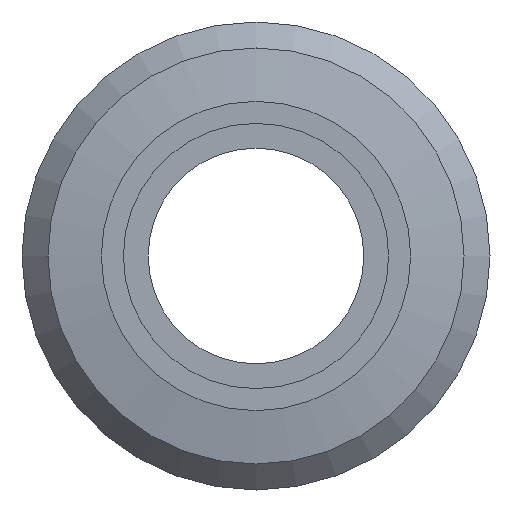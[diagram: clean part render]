
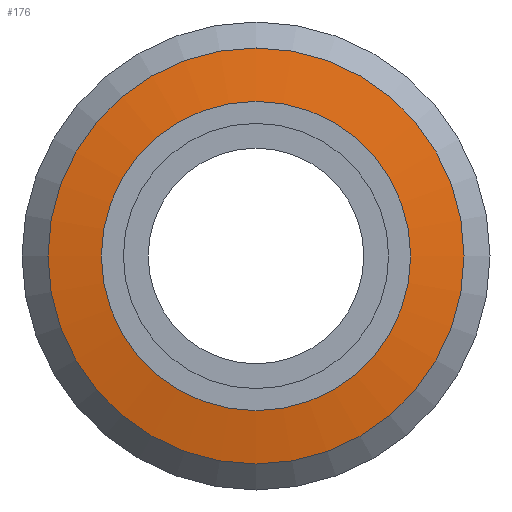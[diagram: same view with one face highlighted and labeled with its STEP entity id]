
A CAD part, front view. The second image highlights one B-rep face of the part: STEP entity #176.
In plain terms, the highlighted conical face has half-angle 80 degrees and reference radius 6.975 mm.
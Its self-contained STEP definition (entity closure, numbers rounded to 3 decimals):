
#142=CARTESIAN_POINT('',(-5.95,-3.2,0.0));
#143=VERTEX_POINT('',#142);
#144=CARTESIAN_POINT('',(0.0,-3.2,0.0));
#145=DIRECTION('',(0.0,1.0,0.0));
#146=DIRECTION('',(-1.0,0.0,0.0));
#147=AXIS2_PLACEMENT_3D('',#144,#145,#146);
#148=CIRCLE('',#147,5.95);
#149=EDGE_CURVE('',#143,#143,#148,.T.);
#157=CARTESIAN_POINT('',(0.0,-3.019,0.0));
#158=DIRECTION('',(0.0,1.0,0.0));
#159=DIRECTION('',(-1.0,0.0,0.0));
#160=AXIS2_PLACEMENT_3D('',#157,#158,#159);
#161=CONICAL_SURFACE('',#160,6.975,80.);
#162=CARTESIAN_POINT('',(-8.0,-2.839,0.0));
#163=VERTEX_POINT('',#162);
#164=CARTESIAN_POINT('',(0.0,-2.839,0.0));
#165=DIRECTION('',(0.0,1.0,0.0));
#166=DIRECTION('',(-1.0,0.0,0.0));
#167=AXIS2_PLACEMENT_3D('',#164,#165,#166);
#168=CIRCLE('',#167,8.0);
#169=EDGE_CURVE('',#163,#163,#168,.T.);
#170=ORIENTED_EDGE('',*,*,#169,.F.);
#171=EDGE_LOOP('',(#170));
#172=FACE_OUTER_BOUND('',#171,.T.);
#173=ORIENTED_EDGE('',*,*,#149,.T.);
#174=EDGE_LOOP('',(#173));
#175=FACE_BOUND('',#174,.T.);
#176=ADVANCED_FACE('',(#172,#175),#161,.T.);
